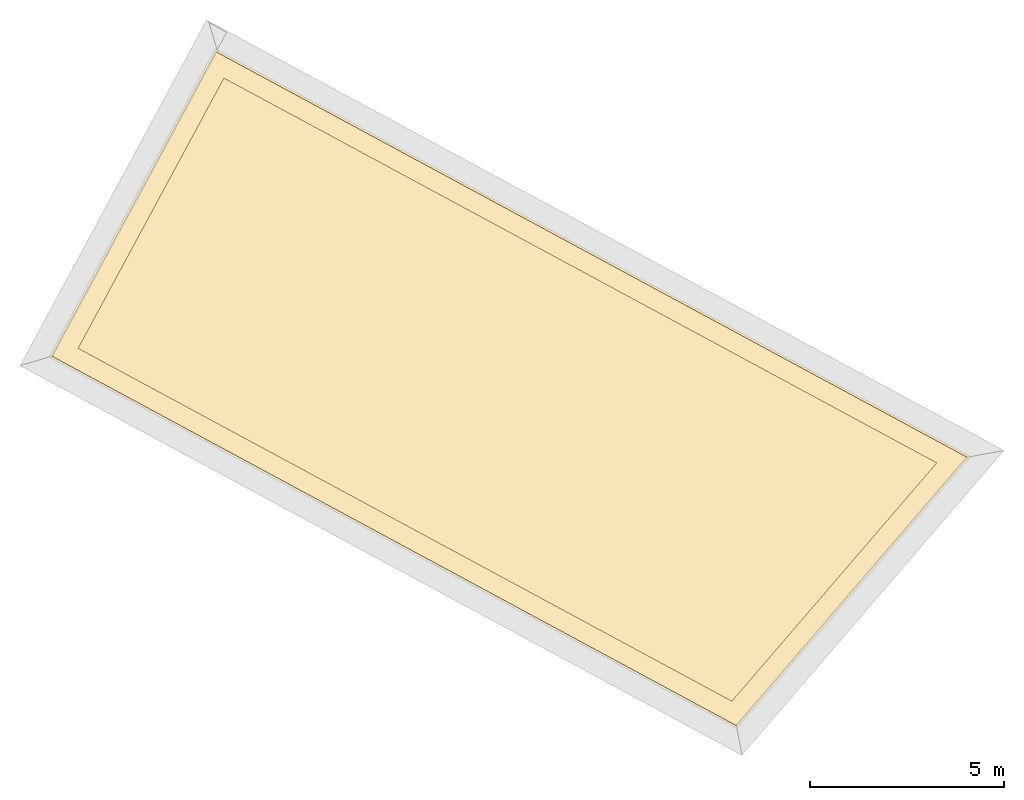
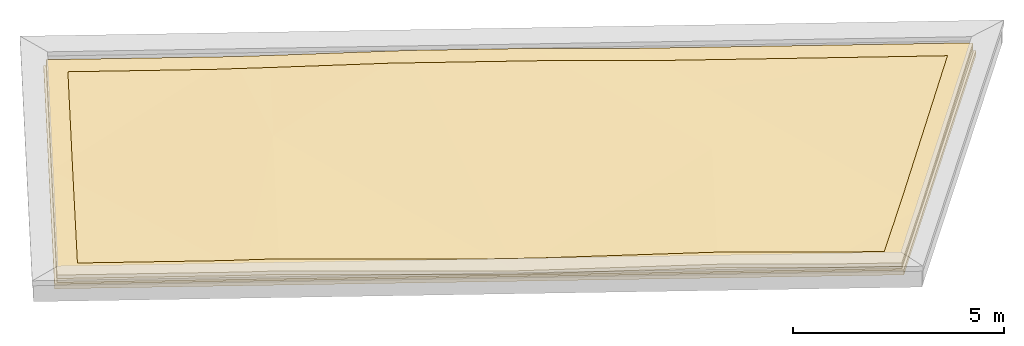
# One storey, part 5 of 5: 4 coverings.
"""IFC2X3 building model written with IfcOpenShell, lengths in metres."""

from ifc_helpers import new_model, entity, si_unit, converted_unit, derived_unit, money_unit, direction, frame, origin_with_axes, place, context, subcontext, project, spatial, faceted_brep, material, type_object, element, save


model = new_model("IFC2X3")

# Units and contexts
model_context = context("Model", 3, precision=1e-05, world=origin_with_axes(), true_north=direction((0.0, 1.0)))
body_context = subcontext(model_context, "Body", "Model", "MODEL_VIEW")
ifc_project = project(units=[si_unit("LENGTHUNIT", "METRE"), si_unit("AREAUNIT", "SQUARE_METRE"), si_unit("VOLUMEUNIT", "CUBIC_METRE"), converted_unit("PLANEANGLEUNIT", "DEGREE", entity("IfcPlaneAngleMeasure", 0.0174532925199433), si_unit("PLANEANGLEUNIT", "RADIAN"), dimensions=[0, 0, 0, 0, 0, 0, 0]), money_unit("EUR"), converted_unit("TIMEUNIT", "Year", entity("IfcTimeMeasure", 31556926.0), si_unit("TIMEUNIT", "SECOND"), dimensions=[0, 0, 1, 0, 0, 0, 0]), si_unit("MASSUNIT", "GRAM", prefix="KILO"), si_unit("THERMODYNAMICTEMPERATUREUNIT", "DEGREE_CELSIUS"), si_unit("LUMINOUSINTENSITYUNIT", "LUMEN"), si_unit("ENERGYUNIT", "JOULE", prefix="MEGA"), derived_unit("THERMALCONDUCTANCEUNIT", [(si_unit("POWERUNIT", "WATT"), 1), (si_unit("LENGTHUNIT", "METRE"), -1), (si_unit("THERMODYNAMICTEMPERATUREUNIT", "KELVIN"), -1)]), derived_unit("SPECIFICHEATCAPACITYUNIT", [(si_unit("ENERGYUNIT", "JOULE"), 1), (si_unit("MASSUNIT", "GRAM", prefix="KILO"), -1), (si_unit("THERMODYNAMICTEMPERATUREUNIT", "KELVIN"), -1)]), derived_unit("MASSDENSITYUNIT", [(si_unit("MASSUNIT", "GRAM", prefix="KILO"), 1), (si_unit("VOLUMEUNIT", "CUBIC_METRE"), -1)])], contexts=[model_context])

# Site, building, storey
site_placement = place(None, frame((-3.949935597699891, 1.740105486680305, 0.0), z_axis=(0.0, 0.0, 1.0), x_axis=(0.8799804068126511, -0.475009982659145, 0.0)))
site = spatial("IfcSite", under=ifc_project, at=site_placement, Name="Gelände", CompositionType="ELEMENT")
building_placement = place(site_placement, origin_with_axes())
building = spatial("IfcBuilding", under=site, at=building_placement, Name="Gebäude", CompositionType="ELEMENT")
storey_placement = place(building_placement, frame((0.0, 0.0, 7.904999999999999), z_axis=(0.0, 0.0, 1.0), x_axis=(1.0, 0.0, 0.0)))
storey = spatial("IfcBuildingStorey", under=building, at=storey_placement, Name="Dachaufsicht", CompositionType="ELEMENT", Elevation=7.905)

# Coverings
ifc_material_1 = material(Name="Dämmung, hart Mineralwolle")
covering_type_1 = type_object("IfcCoveringType", Name="Dämmung, hart Mineralwolle", PredefinedType="NOTDEFINED")
covering_1_placement = place(storey_placement, frame((5.657480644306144, 1.684987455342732, -0.05100000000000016), z_axis=(0.0, 0.0, 1.0), x_axis=(1.0, 0.0, 0.0)))
element("IfcCovering", 1, at=covering_1_placement, inside=storey, type_object=covering_type_1, material=ifc_material_1, Name="Freifläche-004", PredefinedType="NOTDEFINED", context=body_context, shape_type="Brep", body=[
    faceted_brep([(4.472813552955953, 0.0, 0.1159999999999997), (5.290014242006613, 5.600000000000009, 0.1319999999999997), (0.0, 4.472813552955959, 0.01999999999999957), (5.290014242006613, 0.0, 0.1319999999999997), (4.44, 8.91281355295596, 0.1159999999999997), (0.0, 0.0, 0.1159999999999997), (10.89001424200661, 0.0, 0.01999999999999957), (20.04930162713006, 0.0, 0.0), (20.04930162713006, 0.0, 0.06799999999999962), (18.21706153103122, 0.0, 0.06799999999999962), (15.69001424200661, 0.0, 0.1159999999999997), (0.0, 0.0, 0.0), (0.0, 8.91281355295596, 0.1159999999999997), (5.290014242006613, 8.91281355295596, 0.1319999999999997), (0.0, 8.91281355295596, 0.0), (8.602827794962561, 8.91281355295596, 0.2119999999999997), (21.99593527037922, 8.91281355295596, 0.0), (21.99593527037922, 8.91281355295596, 0.1639999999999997), (20.56130393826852, 2.344242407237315, 0.01999999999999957), (15.69001424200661, 4.800000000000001, 0.1159999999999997), (11.57720068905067, 8.91281355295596, 0.2119999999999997), (13.9927327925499, 8.91281355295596, 0.1639999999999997), (15.69001424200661, 7.215532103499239, 0.1159999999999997)], [[[0, 1, 2]], [[3, 1, 0]], [[4, 2, 1]], [[5, 0, 2]], [[3, 6, 1]], [[7, 8, 9, 10, 6, 3, 0, 5, 11]], [[12, 2, 4]], [[13, 4, 1]], [[11, 5, 2, 12, 14]], [[15, 1, 6]], [[16, 17, 18, 8, 7]], [[8, 18, 9]], [[10, 9, 19]], [[10, 19, 6]], [[11, 14, 16, 7]], [[14, 12, 4, 13, 15, 20, 21, 17, 16]], [[15, 13, 1]], [[20, 15, 6]], [[17, 22, 18]], [[18, 19, 9]], [[6, 19, 20]], [[21, 20, 22]], [[17, 21, 22]], [[19, 18, 22]], [[19, 22, 20]]]),
])
ifc_material_2 = material(Name="_SIWH - Gründach")
covering_type_2 = type_object("IfcCoveringType", Name="_SIWH - Gründach", PredefinedType="NOTDEFINED")
covering_2_placement = place(storey_placement, frame((5.657480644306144, 1.684987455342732, -0.05100000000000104), z_axis=(0.0, 0.0, 1.0), x_axis=(1.0, 0.0, 0.0)))
element("IfcCovering", 2, at=covering_2_placement, inside=storey, type_object=covering_type_2, material=ifc_material_2, Name="Freifläche-004", PredefinedType="NOTDEFINED", context=body_context, shape_type="Brep", body=[
    faceted_brep([(21.37494441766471, 8.41281355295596, 0.1521081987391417), (20.14125872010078, 2.764287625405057, 0.0282779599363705), (15.69001424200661, 7.215532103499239, 0.1160000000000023), (20.13828195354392, 8.41281355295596, 0.1498597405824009), (21.37494441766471, 8.41281355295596, 0.2521081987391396), (20.14125872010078, 2.764287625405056, 0.1282779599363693), (20.10027891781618, 2.576658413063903, 0.1290855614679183), (19.90650332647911, 1.689441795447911, 0.1334074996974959), (19.64671920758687, 0.5000000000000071, 0.1577621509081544), (19.64671920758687, 0.5000000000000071, 0.05776215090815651), (19.90650332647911, 1.689441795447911, 0.03340749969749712), (20.10027891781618, 2.576658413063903, 0.02908556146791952), (15.69001424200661, 4.800000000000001, 0.1160000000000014), (14.4927327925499, 8.41281355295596, 0.1498597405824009), (20.13828195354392, 8.41281355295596, 0.2498597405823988), (12.78878924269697, 8.41281355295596, 0.1837194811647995), (12.07720068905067, 8.41281355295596, 0.200329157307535), (11.53865021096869, 8.41281355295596, 0.201228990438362), (8.731136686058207, 8.41281355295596, 0.2012289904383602), (8.102827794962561, 8.41281355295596, 0.199925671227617), (5.290014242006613, 8.41281355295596, 0.1320000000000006), (4.568291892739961, 8.41281355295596, 0.1184148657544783), (3.940000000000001, 8.41281355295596, 0.1051891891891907), (0.4999999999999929, 8.41281355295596, 0.1051891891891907), (0.4999999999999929, 8.41281355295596, 0.2051891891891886), (3.94, 8.41281355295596, 0.2051891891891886), (4.568291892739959, 8.41281355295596, 0.2184148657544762), (5.290014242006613, 8.41281355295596, 0.2320000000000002), (8.102827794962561, 8.41281355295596, 0.2999256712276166), (8.731136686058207, 8.41281355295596, 0.3012289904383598), (11.53865021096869, 8.41281355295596, 0.3012289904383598), (12.07720068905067, 8.41281355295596, 0.3003291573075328), (12.78878924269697, 8.41281355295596, 0.2837194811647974), (14.49273279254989, 8.41281355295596, 0.2498597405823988), (15.69001424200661, 7.215532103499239, 0.2160000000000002), (15.69001424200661, 4.800000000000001, 0.2160000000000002), (17.95382743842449, 0.5000000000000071, 0.1730000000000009), (18.71706153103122, 0.5000000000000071, 0.1577621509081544), (15.69001424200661, 0.5000000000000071, 0.2160000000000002), (11.39001424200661, 0.5000000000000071, 0.1299999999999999), (10.92856472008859, 0.5000000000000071, 0.1307710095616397), (10.76170535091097, 0.5000000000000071, 0.1307710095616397), (10.39001424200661, 0.5000000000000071, 0.1299999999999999), (5.290014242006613, 0.5000000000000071, 0.2320000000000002), (4.54577790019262, 0.5000000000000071, 0.2174285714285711), (3.972813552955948, 0.5000000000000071, 0.2052684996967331), (0.4999999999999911, 0.5000000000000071, 0.2052684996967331), (0.4999999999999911, 0.5000000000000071, 0.1052684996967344), (3.972813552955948, 0.5000000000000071, 0.1052684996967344), (4.545777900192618, 0.5000000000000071, 0.1174285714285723), (5.290014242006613, 0.5000000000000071, 0.1320000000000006), (10.39001424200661, 0.5000000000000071, 0.03000000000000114), (10.76170535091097, 0.5000000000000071, 0.03077100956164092), (10.92856472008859, 0.5000000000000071, 0.03077100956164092), (11.39001424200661, 0.5000000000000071, 0.03000000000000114), (15.69001424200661, 0.5000000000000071, 0.1160000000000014), (17.95382743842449, 0.5000000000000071, 0.07300000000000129), (18.71706153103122, 0.5000000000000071, 0.05776215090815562), (5.290014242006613, 5.600000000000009, 0.1320000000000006), (0.4999999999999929, 4.57935262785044, 0.03058598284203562), (0.4999999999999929, 4.972813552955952, 0.03081081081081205), (0.4999999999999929, 4.972813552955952, 0.1308108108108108), (0.4999999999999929, 3.972813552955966, 0.03073150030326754), (0.4999999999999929, 3.972813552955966, 0.1307315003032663), (0.4999999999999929, 4.57935262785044, 0.1305859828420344), (5.290014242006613, 5.600000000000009, 0.2320000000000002)], [[[0, 1, 2, 3]], [[4, 5, 6, 7, 8, 9, 10, 11, 1, 0]], [[1, 11, 12, 2]], [[13, 3, 2]], [[14, 4, 0, 3, 13, 15, 16, 17, 18, 19, 20, 21, 22, 23, 24, 25, 26, 27, 28, 29, 30, 31, 32, 33]], [[4, 14, 34, 5]], [[6, 5, 34, 35]], [[7, 6, 35, 36, 37]], [[8, 7, 37]], [[8, 37, 36, 38, 39, 40, 41, 42, 43, 44, 45, 46, 47, 48, 49, 50, 51, 52, 53, 54, 55, 56, 57, 9]], [[9, 57, 10]], [[57, 56, 12, 11, 10]], [[16, 15, 2, 12]], [[15, 13, 2]], [[17, 16, 12, 54, 53]], [[18, 17, 53, 52]], [[19, 18, 52, 51, 58]], [[20, 19, 58]], [[21, 20, 58]], [[22, 21, 58, 59, 60]], [[23, 22, 60]], [[61, 24, 23, 60, 59, 62, 47, 46, 63, 64]], [[24, 61, 25]], [[61, 64, 65, 26, 25]], [[27, 26, 65]], [[28, 27, 65]], [[42, 41, 29, 28, 65]], [[41, 40, 30, 29]], [[40, 39, 35, 31, 30]], [[32, 31, 35, 34]], [[33, 32, 34]], [[14, 33, 34]], [[38, 36, 35]], [[39, 38, 35]], [[43, 42, 65]], [[44, 43, 65]], [[45, 44, 65, 64, 63]], [[46, 45, 63]], [[47, 62, 48]], [[62, 59, 58, 49, 48]], [[50, 49, 58]], [[51, 50, 58]], [[55, 54, 12]], [[56, 55, 12]]]),
])
ifc_material_3 = material(Name="_SIWH - Dämmung, hart Mineralwolle")
covering_type_3 = type_object("IfcCoveringType", Name="_SIWH - Dämmung, hart Mineralwolle 140", PredefinedType="NOTDEFINED")
covering_3_placement = place(storey_placement, frame((5.597484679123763, 1.624987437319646, -0.1909999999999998), z_axis=(0.0, 0.0, 1.0), x_axis=(1.0, 0.0, 0.0)))
element("IfcCovering", 3, at=covering_3_placement, inside=storey, type_object=covering_type_3, material=ifc_material_3, Name="Decke032", PredefinedType="NOTDEFINED", context=body_context, shape_type="Brep", body=[
    faceted_brep([(20.15760748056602, 0.0, 0.1399999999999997), (0.0, 0.0, 0.1399999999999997), (0.0, 0.0, 0.0), (20.15760748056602, 0.0, 0.0), (22.1304500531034, 9.0328131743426, 0.1399999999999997), (0.0, 9.0328131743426, 0.1399999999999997), (0.0, 9.0328131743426, 0.0), (22.1304500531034, 9.0328131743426, 0.0)], [[[0, 1, 2, 3]], [[4, 5, 1, 0]], [[1, 5, 6, 2]], [[7, 3, 2, 6]], [[4, 0, 3, 7]], [[5, 4, 7, 6]]]),
])
ifc_material_4 = material(Name="_SIWH - Schotter, fein")
covering_type_4 = type_object("IfcCoveringType", Name="_SIWH - Schotter, fein", PredefinedType="NOTDEFINED")
covering_4_placement = place(storey_placement, frame((5.65748064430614, 1.684987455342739, -0.05100000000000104), z_axis=(0.0, 0.0, 1.0), x_axis=(1.0, 0.0, 0.0)))
element("IfcCovering", 4, at=covering_4_placement, inside=storey, type_object=covering_type_4, material=ifc_material_4, Name="Freifläche-004", PredefinedType="NOTDEFINED", context=body_context, shape_type="Brep", body=[
    faceted_brep([(14.49273279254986, 8.412813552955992, 0.1498597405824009), (20.13828195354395, 8.41281355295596, 0.1498597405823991), (21.37494441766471, 8.412813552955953, 0.1521081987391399), (21.37494441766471, 8.412813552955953, 0.2521081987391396), (20.13828195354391, 8.41281355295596, 0.2498597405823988), (14.4927327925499, 8.412813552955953, 0.2498597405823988), (12.78878924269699, 8.412813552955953, 0.2837194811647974), (12.07720068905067, 8.412813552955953, 0.3003291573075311), (11.53865021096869, 8.412813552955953, 0.3012289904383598), (8.73113668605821, 8.41281355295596, 0.3012289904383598), (8.102827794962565, 8.412813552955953, 0.2999256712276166), (5.290014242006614, 8.412813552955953, 0.2320000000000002), (4.568291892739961, 8.412813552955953, 0.2184148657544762), (3.939999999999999, 8.412813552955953, 0.2051891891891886), (0.4999999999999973, 8.412813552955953, 0.2051891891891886), (0.4999999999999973, 8.412813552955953, 0.1051891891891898), (3.940000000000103, 8.412813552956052, 0.1051891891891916), (4.568291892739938, 8.412813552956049, 0.1184148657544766), (5.290014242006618, 8.412813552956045, 0.1320000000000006), (8.102827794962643, 8.41281355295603, 0.1999256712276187), (8.731136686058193, 8.412813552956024, 0.201228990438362), (11.53865021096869, 8.412813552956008, 0.201228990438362), (12.07720068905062, 8.412813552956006, 0.2003291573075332), (12.78878924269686, 8.412813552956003, 0.1837194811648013), (13.9927327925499, 8.912813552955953, 0.1640000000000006), (21.99593527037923, 8.912813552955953, 0.1640000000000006), (20.56130393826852, 2.344242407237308, 0.02000000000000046), (20.14125872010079, 2.764287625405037, 0.02827795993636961), (19.90650332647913, 1.689441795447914, 0.03340749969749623), (19.64671920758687, 0.5, 0.05776215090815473), (19.64671920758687, 0.5, 0.1577621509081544), (19.90650332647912, 1.689441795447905, 0.1334074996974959), (20.10027891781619, 2.576658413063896, 0.1290855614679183), (20.14125872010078, 2.764287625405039, 0.1282779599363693), (20.10027891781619, 2.57665841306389, 0.02908556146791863), (20.56130393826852, 2.34424240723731, 0.1200000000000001), (21.99593527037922, 8.912813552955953, 0.2640000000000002), (13.9927327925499, 8.912813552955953, 0.2640000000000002), (11.57720068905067, 8.912813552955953, 0.3120000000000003), (8.602827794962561, 8.912813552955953, 0.3120000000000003), (5.290014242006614, 8.912813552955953, 0.2320000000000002), (4.439999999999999, 8.912813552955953, 0.2160000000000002), (0.0, 8.912813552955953, 0.2160000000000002), (0.0, 4.472813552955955, 0.1200000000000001), (0.4999999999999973, 4.972813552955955, 0.1308108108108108), (0.4999999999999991, 4.972813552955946, 0.03081081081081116), (0.4999999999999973, 4.579352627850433, 0.1305859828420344), (0.4999999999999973, 3.972813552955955, 0.1307315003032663), (0.4999999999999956, 0.5, 0.2052684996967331), (0.4999999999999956, 0.5, 0.1052684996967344), (0.4999999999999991, 3.972813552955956, 0.03073150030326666), (0.4999999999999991, 4.579352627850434, 0.03058598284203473), (0.0, 8.912813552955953, 0.1160000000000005), (4.440000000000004, 8.912813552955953, 0.1160000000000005), (0.0, 4.472813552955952, 0.02000000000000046), (5.290014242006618, 8.912813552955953, 0.1320000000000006), (8.602827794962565, 8.912813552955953, 0.2120000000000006), (11.57720068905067, 8.912813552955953, 0.2120000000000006), (20.04930162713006, 0.0, 0.0680000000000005), (20.04930162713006, 0.0, 0.1680000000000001), (18.21706153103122, 0.0, 0.0680000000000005), (18.71706153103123, 0.5, 0.05776215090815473), (3.972813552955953, 0.5, 0.1052684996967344), (3.972813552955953, 0.5, 0.2052684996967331), (4.545777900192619, 0.4999999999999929, 0.2174285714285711), (5.290014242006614, 0.5, 0.2320000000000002), (10.39001424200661, 0.5, 0.1299999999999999), (10.76170535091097, 0.5, 0.1307710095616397), (10.92856472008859, 0.5, 0.1307710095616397), (11.39001424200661, 0.5, 0.1299999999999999), (15.69001424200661, 0.5, 0.2160000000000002), (17.95382743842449, 0.5, 0.1730000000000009), (18.71706153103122, 0.5, 0.1577621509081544), (17.95382743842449, 0.5, 0.0730000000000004), (15.69001424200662, 0.5, 0.1160000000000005), (11.39001424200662, 0.5, 0.03000000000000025), (10.9285647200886, 0.5, 0.03077100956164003), (10.76170535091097, 0.5, 0.03077100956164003), (10.39001424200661, 0.5, 0.03000000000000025), (5.290014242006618, 0.5, 0.1320000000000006), (4.545777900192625, 0.5, 0.1174285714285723), (18.21706153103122, 0.0, 0.1680000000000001), (0.0, 0.0, 0.1160000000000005), (0.0, 0.0, 0.2160000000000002), (4.472813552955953, 0.0, 0.2160000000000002), (4.472813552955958, 0.0, 0.1160000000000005), (15.69001424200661, 0.0, 0.2160000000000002), (10.89001424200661, 0.0, 0.1200000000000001), (5.290014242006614, 0.0, 0.2320000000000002), (5.290014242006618, 0.0, 0.1320000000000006), (10.89001424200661, 0.0, 0.02000000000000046), (15.69001424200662, 0.0, 0.1160000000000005)], [[[0, 1, 2, 3, 4, 5, 6, 7, 8, 9, 10, 11, 12, 13, 14, 15, 16, 17, 18, 19, 20, 21, 22, 23]], [[24, 25, 1, 0]], [[25, 26, 27, 2, 1]], [[28, 29, 30, 31, 32, 33, 3, 2, 27, 34]], [[33, 35, 36, 4, 3]], [[4, 36, 37, 5]], [[5, 37, 38, 6]], [[38, 7, 6]], [[38, 8, 7]], [[39, 9, 8, 38]], [[39, 10, 9]], [[10, 39, 40, 11]], [[41, 12, 11, 40]], [[41, 13, 12]], [[13, 41, 42, 43, 44, 14]], [[45, 15, 14, 44, 46, 47, 48, 49, 50, 51]], [[52, 53, 16, 15, 45, 54]], [[17, 16, 53]], [[53, 55, 18, 17]], [[55, 56, 19, 18]], [[20, 19, 56]], [[56, 57, 21, 20]], [[22, 21, 57]], [[23, 22, 57]], [[0, 23, 57, 24]], [[53, 52, 42, 41, 40, 39, 38, 37, 36, 25, 24, 57, 56, 55]], [[58, 26, 25, 36, 35, 59]], [[34, 27, 26]], [[26, 58, 60, 61, 29, 28]], [[62, 49, 48, 63, 64, 65, 66, 67, 68, 69, 70, 71, 72, 30, 29, 61, 73, 74, 75, 76, 77, 78, 79, 80]], [[72, 81, 59, 35, 31, 30]], [[35, 32, 31]], [[35, 33, 32]], [[28, 34, 26]], [[54, 82, 83, 43, 42, 52]], [[43, 46, 44]], [[43, 47, 46]], [[47, 43, 83, 84, 63, 48]], [[85, 82, 54, 50, 49, 62]], [[51, 50, 54]], [[45, 51, 54]], [[60, 58, 59, 81, 86, 87, 88, 84, 83, 82, 85, 89, 90, 91]], [[73, 61, 60]], [[84, 64, 63]], [[88, 65, 64, 84]], [[65, 88, 87, 66]], [[87, 67, 66]], [[87, 68, 67]], [[87, 69, 68]], [[86, 70, 69, 87]], [[81, 71, 70, 86]], [[81, 72, 71]], [[60, 91, 74, 73]], [[75, 74, 91, 90]], [[76, 75, 90]], [[77, 76, 90]], [[78, 77, 90]], [[90, 89, 79, 78]], [[80, 79, 89, 85]], [[62, 80, 85]]]),
])

save(model, "model.ifc")
